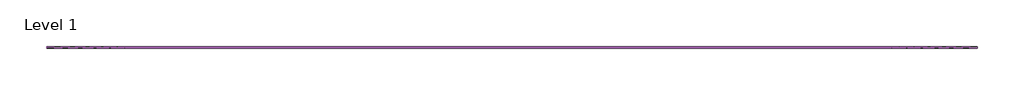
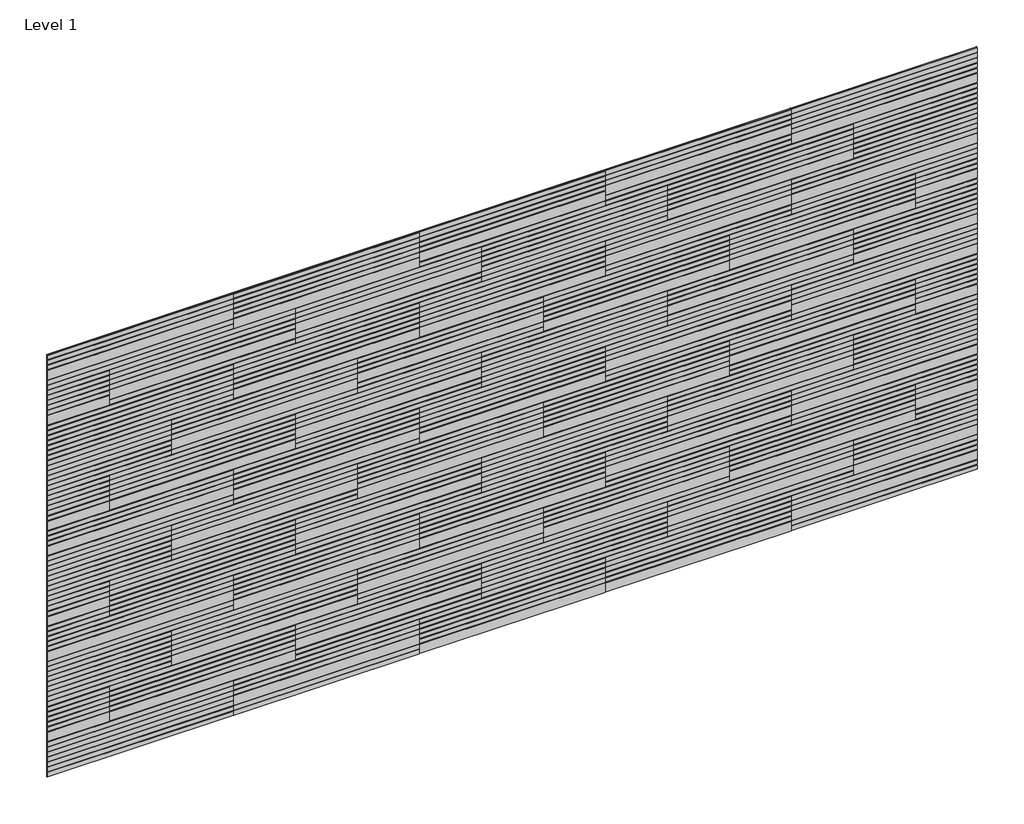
# One storey: 67 proxies.
"""IFC4 building model written with IfcOpenShell, lengths in millimetres."""

from ifc_helpers import new_model, si_unit, origin, place, context, project, spatial, transform, mapped, element, save
from components import module_a_b5c75f02, module_b_1bbdab97, module_c_0c66536b, module_d_57ad0258, module_e_592a369e, module_h_7d357ae6, module_j_3c90ee58, module_l_b7052bb7

model = new_model("IFC4")

# Units and contexts
model_context = context("Model", 3, world=origin())
ifc_project = project(units=[si_unit("LENGTHUNIT", "METRE", prefix="MILLI")], contexts=[model_context])

# Site, building, storey
site = spatial("IfcSite", under=ifc_project)
building = spatial("IfcBuilding", under=site)
storey = spatial("IfcBuildingStorey", under=building, Name="Level 1", Elevation=0.0)

# Proxies
placement = place(None, origin())
module_a_shape = module_a_b5c75f02(model_context)
element("IfcBuildingElementProxy", 1, Name="FilzFelt_Gap : Module A", ObjectType="FilzFelt_Gap : Module A", at=placement, inside=storey, context=model_context, shape_type="MappedRepresentation", body=[
    mapped(module_a_shape, transform((-18192.5631386, 525.5178844, 2895.6), x_axis=(1.0, 0.0, 0.0), y_axis=(0.0, 0.0, 1.0), z_axis=(0.0, -1.0, 0.0))),
])
element("IfcBuildingElementProxy", 2, Name="FilzFelt_Gap : Module A", ObjectType="FilzFelt_Gap : Module A", at=placement, inside=storey, context=model_context, shape_type="MappedRepresentation", body=[
    mapped(module_a_shape, transform((-18192.5631386, 525.5178844, 152.4), x_axis=(1.0, 0.0, 0.0), y_axis=(0.0, 0.0, 1.0), z_axis=(0.0, -1.0, 0.0))),
])
element("IfcBuildingElementProxy", 3, Name="FilzFelt_Gap : Module A", ObjectType="FilzFelt_Gap : Module A", at=placement, inside=storey, context=model_context, shape_type="MappedRepresentation", body=[
    mapped(module_a_shape, transform((-14636.5631386, 525.5178844, 2286.0), x_axis=(1.0, 0.0, 0.0), y_axis=(0.0, 0.0, 1.0), z_axis=(0.0, -1.0, 0.0))),
])
element("IfcBuildingElementProxy", 4, Name="FilzFelt_Gap : Module A", ObjectType="FilzFelt_Gap : Module A", at=placement, inside=storey, context=model_context, shape_type="MappedRepresentation", body=[
    mapped(module_a_shape, transform((-17684.5631386, 525.5178844, 1371.6), x_axis=(1.0, 0.0, 0.0), y_axis=(0.0, 0.0, 1.0), z_axis=(0.0, -1.0, 0.0))),
])
element("IfcBuildingElementProxy", 5, Name="FilzFelt_Gap : Module A", ObjectType="FilzFelt_Gap : Module A", at=placement, inside=storey, context=model_context, shape_type="MappedRepresentation", body=[
    mapped(module_a_shape, transform((-14636.5631386, 525.5178844, 1371.6), x_axis=(1.0, 0.0, 0.0), y_axis=(0.0, 0.0, 1.0), z_axis=(0.0, -1.0, 0.0))),
])
element("IfcBuildingElementProxy", 6, Name="FilzFelt_Gap : Module A", ObjectType="FilzFelt_Gap : Module A", at=placement, inside=storey, context=model_context, shape_type="MappedRepresentation", body=[
    mapped(module_a_shape, transform((-14636.5631386, 525.5178844, 457.2), x_axis=(1.0, 0.0, 0.0), y_axis=(0.0, 0.0, 1.0), z_axis=(0.0, -1.0, 0.0))),
])
element("IfcBuildingElementProxy", 7, Name="FilzFelt_Gap : Module A", ObjectType="FilzFelt_Gap : Module A", at=placement, inside=storey, context=model_context, shape_type="MappedRepresentation", body=[
    mapped(module_a_shape, transform((-14636.5631386, 525.5178844, 3200.4), x_axis=(1.0, 0.0, 0.0), y_axis=(0.0, 0.0, 1.0), z_axis=(0.0, -1.0, 0.0))),
])
module_b_shape = module_b_1bbdab97(model_context)
element("IfcBuildingElementProxy", 8, Name="FilzFelt_Gap : Module B", ObjectType="FilzFelt_Gap : Module B", at=placement, inside=storey, context=model_context, shape_type="MappedRepresentation", body=[
    mapped(module_b_shape, transform((-18192.5631386, 525.5178844, 3505.2), x_axis=(1.0, 0.0, 0.0), y_axis=(0.0, 0.0, 1.0), z_axis=(0.0, -1.0, 0.0))),
])
element("IfcBuildingElementProxy", 9, Name="FilzFelt_Gap : Module B", ObjectType="FilzFelt_Gap : Module B", at=placement, inside=storey, context=model_context, shape_type="MappedRepresentation", body=[
    mapped(module_b_shape, transform((-18192.5631386, 525.5178844, 1981.2), x_axis=(1.0, 0.0, 0.0), y_axis=(0.0, 0.0, 1.0), z_axis=(0.0, -1.0, 0.0))),
])
element("IfcBuildingElementProxy", 10, Name="FilzFelt_Gap : Module B", ObjectType="FilzFelt_Gap : Module B", at=placement, inside=storey, context=model_context, shape_type="MappedRepresentation", body=[
    mapped(module_b_shape, transform((-18192.5631386, 525.5178844, 1066.8), x_axis=(1.0, 0.0, 0.0), y_axis=(0.0, 0.0, 1.0), z_axis=(0.0, -1.0, 0.0))),
])
element("IfcBuildingElementProxy", 11, Name="FilzFelt_Gap : Module B", ObjectType="FilzFelt_Gap : Module B", at=placement, inside=storey, context=model_context, shape_type="MappedRepresentation", body=[
    mapped(module_b_shape, transform((-13620.5631386, 525.5178844, 3505.2), x_axis=(1.0, 0.0, 0.0), y_axis=(0.0, 0.0, 1.0), z_axis=(0.0, -1.0, 0.0))),
])
element("IfcBuildingElementProxy", 12, Name="FilzFelt_Gap : Module B", ObjectType="FilzFelt_Gap : Module B", at=placement, inside=storey, context=model_context, shape_type="MappedRepresentation", body=[
    mapped(module_b_shape, transform((-13620.5631386, 525.5178844, 2895.6), x_axis=(1.0, 0.0, 0.0), y_axis=(0.0, 0.0, 1.0), z_axis=(0.0, -1.0, 0.0))),
])
element("IfcBuildingElementProxy", 13, Name="FilzFelt_Gap : Module B", ObjectType="FilzFelt_Gap : Module B", at=placement, inside=storey, context=model_context, shape_type="MappedRepresentation", body=[
    mapped(module_b_shape, transform((-12096.5631386, 525.5178844, 2895.6), x_axis=(1.0, 0.0, 0.0), y_axis=(0.0, 0.0, 1.0), z_axis=(0.0, -1.0, 0.0))),
])
element("IfcBuildingElementProxy", 14, Name="FilzFelt_Gap : Module B", ObjectType="FilzFelt_Gap : Module B", at=placement, inside=storey, context=model_context, shape_type="MappedRepresentation", body=[
    mapped(module_b_shape, transform((-15652.5631386, 525.5178844, 2590.8), x_axis=(1.0, 0.0, 0.0), y_axis=(0.0, 0.0, 1.0), z_axis=(0.0, -1.0, 0.0))),
])
element("IfcBuildingElementProxy", 15, Name="FilzFelt_Gap : Module B", ObjectType="FilzFelt_Gap : Module B", at=placement, inside=storey, context=model_context, shape_type="MappedRepresentation", body=[
    mapped(module_b_shape, transform((-16160.5631386, 525.5178844, 2286.0), x_axis=(1.0, 0.0, 0.0), y_axis=(0.0, 0.0, 1.0), z_axis=(0.0, -1.0, 0.0))),
])
element("IfcBuildingElementProxy", 16, Name="FilzFelt_Gap : Module B", ObjectType="FilzFelt_Gap : Module B", at=placement, inside=storey, context=model_context, shape_type="MappedRepresentation", body=[
    mapped(module_b_shape, transform((-13112.5631386, 525.5178844, 2286.0), x_axis=(1.0, 0.0, 0.0), y_axis=(0.0, 0.0, 1.0), z_axis=(0.0, -1.0, 0.0))),
])
element("IfcBuildingElementProxy", 17, Name="FilzFelt_Gap : Module B", ObjectType="FilzFelt_Gap : Module B", at=placement, inside=storey, context=model_context, shape_type="MappedRepresentation", body=[
    mapped(module_b_shape, transform((-13620.5631386, 525.5178844, 1981.2), x_axis=(1.0, 0.0, 0.0), y_axis=(0.0, 0.0, 1.0), z_axis=(0.0, -1.0, 0.0))),
])
element("IfcBuildingElementProxy", 18, Name="FilzFelt_Gap : Module B", ObjectType="FilzFelt_Gap : Module B", at=placement, inside=storey, context=model_context, shape_type="MappedRepresentation", body=[
    mapped(module_b_shape, transform((-17176.5631386, 525.5178844, 1676.4), x_axis=(1.0, 0.0, 0.0), y_axis=(0.0, 0.0, 1.0), z_axis=(0.0, -1.0, 0.0))),
])
element("IfcBuildingElementProxy", 19, Name="FilzFelt_Gap : Module B", ObjectType="FilzFelt_Gap : Module B", at=placement, inside=storey, context=model_context, shape_type="MappedRepresentation", body=[
    mapped(module_b_shape, transform((-12604.5631386, 525.5178844, 1676.4), x_axis=(1.0, 0.0, 0.0), y_axis=(0.0, 0.0, 1.0), z_axis=(0.0, -1.0, 0.0))),
])
element("IfcBuildingElementProxy", 20, Name="FilzFelt_Gap : Module B", ObjectType="FilzFelt_Gap : Module B", at=placement, inside=storey, context=model_context, shape_type="MappedRepresentation", body=[
    mapped(module_b_shape, transform((-16160.5631386, 525.5178844, 1371.6), x_axis=(1.0, 0.0, 0.0), y_axis=(0.0, 0.0, 1.0), z_axis=(0.0, -1.0, 0.0))),
])
element("IfcBuildingElementProxy", 21, Name="FilzFelt_Gap : Module B", ObjectType="FilzFelt_Gap : Module B", at=placement, inside=storey, context=model_context, shape_type="MappedRepresentation", body=[
    mapped(module_b_shape, transform((-13620.5631386, 525.5178844, 1066.8), x_axis=(1.0, 0.0, 0.0), y_axis=(0.0, 0.0, 1.0), z_axis=(0.0, -1.0, 0.0))),
])
element("IfcBuildingElementProxy", 22, Name="FilzFelt_Gap : Module B", ObjectType="FilzFelt_Gap : Module B", at=placement, inside=storey, context=model_context, shape_type="MappedRepresentation", body=[
    mapped(module_b_shape, transform((-12096.5631386, 525.5178844, 1066.8), x_axis=(1.0, 0.0, 0.0), y_axis=(0.0, 0.0, 1.0), z_axis=(0.0, -1.0, 0.0))),
])
element("IfcBuildingElementProxy", 23, Name="FilzFelt_Gap : Module B", ObjectType="FilzFelt_Gap : Module B", at=placement, inside=storey, context=model_context, shape_type="MappedRepresentation", body=[
    mapped(module_b_shape, transform((-15652.5631386, 525.5178844, 762.0), x_axis=(1.0, 0.0, 0.0), y_axis=(0.0, 0.0, 1.0), z_axis=(0.0, -1.0, 0.0))),
])
element("IfcBuildingElementProxy", 24, Name="FilzFelt_Gap : Module B", ObjectType="FilzFelt_Gap : Module B", at=placement, inside=storey, context=model_context, shape_type="MappedRepresentation", body=[
    mapped(module_b_shape, transform((-16160.5631386, 525.5178844, 457.2), x_axis=(1.0, 0.0, 0.0), y_axis=(0.0, 0.0, 1.0), z_axis=(0.0, -1.0, 0.0))),
])
element("IfcBuildingElementProxy", 25, Name="FilzFelt_Gap : Module B", ObjectType="FilzFelt_Gap : Module B", at=placement, inside=storey, context=model_context, shape_type="MappedRepresentation", body=[
    mapped(module_b_shape, transform((-13112.5631386, 525.5178844, 457.2), x_axis=(1.0, 0.0, 0.0), y_axis=(0.0, 0.0, 1.0), z_axis=(0.0, -1.0, 0.0))),
])
element("IfcBuildingElementProxy", 26, Name="FilzFelt_Gap : Module B", ObjectType="FilzFelt_Gap : Module B", at=placement, inside=storey, context=model_context, shape_type="MappedRepresentation", body=[
    mapped(module_b_shape, transform((-16668.5631386, 525.5178844, 152.4), x_axis=(1.0, 0.0, 0.0), y_axis=(0.0, 0.0, 1.0), z_axis=(0.0, -1.0, 0.0))),
])
element("IfcBuildingElementProxy", 27, Name="FilzFelt_Gap : Module B", ObjectType="FilzFelt_Gap : Module B", at=placement, inside=storey, context=model_context, shape_type="MappedRepresentation", body=[
    mapped(module_b_shape, transform((-12096.5631386, 525.5178844, 152.4), x_axis=(1.0, 0.0, 0.0), y_axis=(0.0, 0.0, 1.0), z_axis=(0.0, -1.0, 0.0))),
])
element("IfcBuildingElementProxy", 28, Name="FilzFelt_Gap : Module B", ObjectType="FilzFelt_Gap : Module B", at=placement, inside=storey, context=model_context, shape_type="MappedRepresentation", body=[
    mapped(module_b_shape, transform((-16160.5631386, 525.5178844, 3200.4), x_axis=(1.0, 0.0, 0.0), y_axis=(0.0, 0.0, 1.0), z_axis=(0.0, -1.0, 0.0))),
])
module_c_shape = module_c_0c66536b(model_context)
element("IfcBuildingElementProxy", 29, Name="FilzFelt_Gap : Module C", ObjectType="FilzFelt_Gap : Module C", at=placement, inside=storey, context=model_context, shape_type="MappedRepresentation", body=[
    mapped(module_c_shape, transform((-15144.5631386, 525.5178844, 3505.2), x_axis=(1.0, 0.0, 0.0), y_axis=(0.0, 0.0, 1.0), z_axis=(0.0, -1.0, 0.0))),
])
element("IfcBuildingElementProxy", 30, Name="FilzFelt_Gap : Module C", ObjectType="FilzFelt_Gap : Module C", at=placement, inside=storey, context=model_context, shape_type="MappedRepresentation", body=[
    mapped(module_c_shape, transform((-17176.5631386, 525.5178844, 2590.8), x_axis=(1.0, 0.0, 0.0), y_axis=(0.0, 0.0, 1.0), z_axis=(0.0, -1.0, 0.0))),
])
element("IfcBuildingElementProxy", 31, Name="FilzFelt_Gap : Module C", ObjectType="FilzFelt_Gap : Module C", at=placement, inside=storey, context=model_context, shape_type="MappedRepresentation", body=[
    mapped(module_c_shape, transform((-16668.5631386, 525.5178844, 1981.2), x_axis=(1.0, 0.0, 0.0), y_axis=(0.0, 0.0, 1.0), z_axis=(0.0, -1.0, 0.0))),
])
element("IfcBuildingElementProxy", 32, Name="FilzFelt_Gap : Module C", ObjectType="FilzFelt_Gap : Module C", at=placement, inside=storey, context=model_context, shape_type="MappedRepresentation", body=[
    mapped(module_c_shape, transform((-12096.5631386, 525.5178844, 1981.2), x_axis=(1.0, 0.0, 0.0), y_axis=(0.0, 0.0, 1.0), z_axis=(0.0, -1.0, 0.0))),
])
element("IfcBuildingElementProxy", 33, Name="FilzFelt_Gap : Module C", ObjectType="FilzFelt_Gap : Module C", at=placement, inside=storey, context=model_context, shape_type="MappedRepresentation", body=[
    mapped(module_c_shape, transform((-13112.5631386, 525.5178844, 1371.6), x_axis=(1.0, 0.0, 0.0), y_axis=(0.0, 0.0, 1.0), z_axis=(0.0, -1.0, 0.0))),
])
element("IfcBuildingElementProxy", 34, Name="FilzFelt_Gap : Module C", ObjectType="FilzFelt_Gap : Module C", at=placement, inside=storey, context=model_context, shape_type="MappedRepresentation", body=[
    mapped(module_c_shape, transform((-14128.5631386, 525.5178844, 762.0), x_axis=(1.0, 0.0, 0.0), y_axis=(0.0, 0.0, 1.0), z_axis=(0.0, -1.0, 0.0))),
])
element("IfcBuildingElementProxy", 35, Name="FilzFelt_Gap : Module C", ObjectType="FilzFelt_Gap : Module C", at=placement, inside=storey, context=model_context, shape_type="MappedRepresentation", body=[
    mapped(module_c_shape, transform((-17684.5631386, 525.5178844, 3200.4), x_axis=(1.0, 0.0, 0.0), y_axis=(0.0, 0.0, 1.0), z_axis=(0.0, -1.0, 0.0))),
])
module_d_shape = module_d_57ad0258(model_context)
element("IfcBuildingElementProxy", 36, Name="FilzFelt_Gap : Module D", ObjectType="FilzFelt_Gap : Module D", at=placement, inside=storey, context=model_context, shape_type="MappedRepresentation", body=[
    mapped(module_d_shape, transform((-16668.5631386, 525.5178844, 3505.2), x_axis=(1.0, 0.0, 0.0), y_axis=(0.0, 0.0, 1.0), z_axis=(0.0, -1.0, 0.0))),
])
element("IfcBuildingElementProxy", 37, Name="FilzFelt_Gap : Module D", ObjectType="FilzFelt_Gap : Module D", at=placement, inside=storey, context=model_context, shape_type="MappedRepresentation", body=[
    mapped(module_d_shape, transform((-12096.5631386, 525.5178844, 3505.2), x_axis=(1.0, 0.0, 0.0), y_axis=(0.0, 0.0, 1.0), z_axis=(0.0, -1.0, 0.0))),
])
element("IfcBuildingElementProxy", 38, Name="FilzFelt_Gap : Module D", ObjectType="FilzFelt_Gap : Module D", at=placement, inside=storey, context=model_context, shape_type="MappedRepresentation", body=[
    mapped(module_d_shape, transform((-16668.5631386, 525.5178844, 2895.6), x_axis=(1.0, 0.0, 0.0), y_axis=(0.0, 0.0, 1.0), z_axis=(0.0, -1.0, 0.0))),
])
element("IfcBuildingElementProxy", 39, Name="FilzFelt_Gap : Module D", ObjectType="FilzFelt_Gap : Module D", at=placement, inside=storey, context=model_context, shape_type="MappedRepresentation", body=[
    mapped(module_d_shape, transform((-15144.5631386, 525.5178844, 2895.6), x_axis=(1.0, 0.0, 0.0), y_axis=(0.0, 0.0, 1.0), z_axis=(0.0, -1.0, 0.0))),
])
element("IfcBuildingElementProxy", 40, Name="FilzFelt_Gap : Module D", ObjectType="FilzFelt_Gap : Module D", at=placement, inside=storey, context=model_context, shape_type="MappedRepresentation", body=[
    mapped(module_d_shape, transform((-14128.5631386, 525.5178844, 2590.8), x_axis=(1.0, 0.0, 0.0), y_axis=(0.0, 0.0, 1.0), z_axis=(0.0, -1.0, 0.0))),
])
element("IfcBuildingElementProxy", 41, Name="FilzFelt_Gap : Module D", ObjectType="FilzFelt_Gap : Module D", at=placement, inside=storey, context=model_context, shape_type="MappedRepresentation", body=[
    mapped(module_d_shape, transform((-12604.5631386, 525.5178844, 2590.8), x_axis=(1.0, 0.0, 0.0), y_axis=(0.0, 0.0, 1.0), z_axis=(0.0, -1.0, 0.0))),
])
element("IfcBuildingElementProxy", 42, Name="FilzFelt_Gap : Module D", ObjectType="FilzFelt_Gap : Module D", at=placement, inside=storey, context=model_context, shape_type="MappedRepresentation", body=[
    mapped(module_d_shape, transform((-17684.5631386, 525.5178844, 2286.0), x_axis=(1.0, 0.0, 0.0), y_axis=(0.0, 0.0, 1.0), z_axis=(0.0, -1.0, 0.0))),
])
element("IfcBuildingElementProxy", 43, Name="FilzFelt_Gap : Module D", ObjectType="FilzFelt_Gap : Module D", at=placement, inside=storey, context=model_context, shape_type="MappedRepresentation", body=[
    mapped(module_d_shape, transform((-15144.5631386, 525.5178844, 1981.2), x_axis=(1.0, 0.0, 0.0), y_axis=(0.0, 0.0, 1.0), z_axis=(0.0, -1.0, 0.0))),
])
element("IfcBuildingElementProxy", 44, Name="FilzFelt_Gap : Module D", ObjectType="FilzFelt_Gap : Module D", at=placement, inside=storey, context=model_context, shape_type="MappedRepresentation", body=[
    mapped(module_d_shape, transform((-15652.5631386, 525.5178844, 1676.4), x_axis=(1.0, 0.0, 0.0), y_axis=(0.0, 0.0, 1.0), z_axis=(0.0, -1.0, 0.0))),
])
element("IfcBuildingElementProxy", 45, Name="FilzFelt_Gap : Module D", ObjectType="FilzFelt_Gap : Module D", at=placement, inside=storey, context=model_context, shape_type="MappedRepresentation", body=[
    mapped(module_d_shape, transform((-14128.5631386, 525.5178844, 1676.4), x_axis=(1.0, 0.0, 0.0), y_axis=(0.0, 0.0, 1.0), z_axis=(0.0, -1.0, 0.0))),
])
element("IfcBuildingElementProxy", 46, Name="FilzFelt_Gap : Module D", ObjectType="FilzFelt_Gap : Module D", at=placement, inside=storey, context=model_context, shape_type="MappedRepresentation", body=[
    mapped(module_d_shape, transform((-16668.5631386, 525.5178844, 1066.8), x_axis=(1.0, 0.0, 0.0), y_axis=(0.0, 0.0, 1.0), z_axis=(0.0, -1.0, 0.0))),
])
element("IfcBuildingElementProxy", 47, Name="FilzFelt_Gap : Module D", ObjectType="FilzFelt_Gap : Module D", at=placement, inside=storey, context=model_context, shape_type="MappedRepresentation", body=[
    mapped(module_d_shape, transform((-15144.5631386, 525.5178844, 1066.8), x_axis=(1.0, 0.0, 0.0), y_axis=(0.0, 0.0, 1.0), z_axis=(0.0, -1.0, 0.0))),
])
element("IfcBuildingElementProxy", 48, Name="FilzFelt_Gap : Module D", ObjectType="FilzFelt_Gap : Module D", at=placement, inside=storey, context=model_context, shape_type="MappedRepresentation", body=[
    mapped(module_d_shape, transform((-17176.5631386, 525.5178844, 762.0), x_axis=(1.0, 0.0, 0.0), y_axis=(0.0, 0.0, 1.0), z_axis=(0.0, -1.0, 0.0))),
])
element("IfcBuildingElementProxy", 49, Name="FilzFelt_Gap : Module D", ObjectType="FilzFelt_Gap : Module D", at=placement, inside=storey, context=model_context, shape_type="MappedRepresentation", body=[
    mapped(module_d_shape, transform((-12604.5631386, 525.5178844, 762.0), x_axis=(1.0, 0.0, 0.0), y_axis=(0.0, 0.0, 1.0), z_axis=(0.0, -1.0, 0.0))),
])
element("IfcBuildingElementProxy", 50, Name="FilzFelt_Gap : Module D", ObjectType="FilzFelt_Gap : Module D", at=placement, inside=storey, context=model_context, shape_type="MappedRepresentation", body=[
    mapped(module_d_shape, transform((-17684.5631386, 525.5178844, 457.2), x_axis=(1.0, 0.0, 0.0), y_axis=(0.0, 0.0, 1.0), z_axis=(0.0, -1.0, 0.0))),
])
element("IfcBuildingElementProxy", 51, Name="FilzFelt_Gap : Module D", ObjectType="FilzFelt_Gap : Module D", at=placement, inside=storey, context=model_context, shape_type="MappedRepresentation", body=[
    mapped(module_d_shape, transform((-15144.5631386, 525.5178844, 152.4), x_axis=(1.0, 0.0, 0.0), y_axis=(0.0, 0.0, 1.0), z_axis=(0.0, -1.0, 0.0))),
])
element("IfcBuildingElementProxy", 52, Name="FilzFelt_Gap : Module D", ObjectType="FilzFelt_Gap : Module D", at=placement, inside=storey, context=model_context, shape_type="MappedRepresentation", body=[
    mapped(module_d_shape, transform((-13620.5631386, 525.5178844, 152.4), x_axis=(1.0, 0.0, 0.0), y_axis=(0.0, 0.0, 1.0), z_axis=(0.0, -1.0, 0.0))),
])
element("IfcBuildingElementProxy", 53, Name="FilzFelt_Gap : Module D", ObjectType="FilzFelt_Gap : Module D", at=placement, inside=storey, context=model_context, shape_type="MappedRepresentation", body=[
    mapped(module_d_shape, transform((-13112.5631386, 525.5178844, 3200.4), x_axis=(1.0, 0.0, 0.0), y_axis=(0.0, 0.0, 1.0), z_axis=(0.0, -1.0, 0.0))),
])
module_e_shape = module_e_592a369e(model_context)
element("IfcBuildingElementProxy", 54, Name="FilzFelt_Gap : Module E", ObjectType="FilzFelt_Gap : Module E", at=placement, inside=storey, context=model_context, shape_type="MappedRepresentation", body=[
    mapped(module_e_shape, transform((-18446.5631386, 525.5178844, 2590.8), x_axis=(1.0, 0.0, 0.0), y_axis=(0.0, 0.0, 1.0), z_axis=(0.0, -1.0, 0.0))),
])
element("IfcBuildingElementProxy", 55, Name="FilzFelt_Gap : Module E", ObjectType="FilzFelt_Gap : Module E", at=placement, inside=storey, context=model_context, shape_type="MappedRepresentation", body=[
    mapped(module_e_shape, transform((-18446.5631386, 525.5178844, 1676.4), x_axis=(1.0, 0.0, 0.0), y_axis=(0.0, 0.0, 1.0), z_axis=(0.0, -1.0, 0.0))),
])
element("IfcBuildingElementProxy", 56, Name="FilzFelt_Gap : Module E", ObjectType="FilzFelt_Gap : Module E", at=placement, inside=storey, context=model_context, shape_type="MappedRepresentation", body=[
    mapped(module_e_shape, transform((-18446.5631386, 525.5178844, 762.0), x_axis=(1.0, 0.0, 0.0), y_axis=(0.0, 0.0, 1.0), z_axis=(0.0, -1.0, 0.0))),
])
element("IfcBuildingElementProxy", 57, Name="FilzFelt_Gap : Module E", ObjectType="FilzFelt_Gap : Module E", at=placement, inside=storey, context=model_context, shape_type="MappedRepresentation", body=[
    mapped(module_e_shape, transform((-11842.5631386, 525.5178844, 1371.6), x_axis=(1.0, 0.0, 0.0), y_axis=(0.0, 0.0, 1.0), z_axis=(0.0, -1.0, 0.0))),
])
element("IfcBuildingElementProxy", 58, Name="FilzFelt_Gap : Module E", ObjectType="FilzFelt_Gap : Module E", at=placement, inside=storey, context=model_context, shape_type="MappedRepresentation", body=[
    mapped(module_e_shape, transform((-11842.5631386, 525.5178844, 3200.4), x_axis=(1.0, 0.0, 0.0), y_axis=(0.0, 0.0, 1.0), z_axis=(0.0, -1.0, 0.0))),
])
module_h_shape = module_h_7d357ae6(model_context)
element("IfcBuildingElementProxy", 59, Name="FilzFelt_Gap : Module H", ObjectType="FilzFelt_Gap : Module H", at=placement, inside=storey, context=model_context, shape_type="MappedRepresentation", body=[
    mapped(module_h_shape, transform((-11842.5631386, 525.5178844, 2286.0), x_axis=(1.0, 0.0, 0.0), y_axis=(0.0, 0.0, 1.0), z_axis=(0.0, -1.0, 0.0))),
])
element("IfcBuildingElementProxy", 60, Name="FilzFelt_Gap : Module H", ObjectType="FilzFelt_Gap : Module H", at=placement, inside=storey, context=model_context, shape_type="MappedRepresentation", body=[
    mapped(module_h_shape, transform((-11842.5631386, 525.5178844, 457.2), x_axis=(1.0, 0.0, 0.0), y_axis=(0.0, 0.0, 1.0), z_axis=(0.0, -1.0, 0.0))),
])
module_j_shape = module_j_3c90ee58(model_context)
element("IfcBuildingElementProxy", 61, Name="FilzFelt_Gap : Module J", ObjectType="FilzFelt_Gap : Module J", at=placement, inside=storey, context=model_context, shape_type="MappedRepresentation", body=[
    mapped(module_j_shape, transform((-18700.5631386, 525.5178844, 1371.6), x_axis=(1.0, 0.0, 0.0), y_axis=(0.0, 0.0, 1.0), z_axis=(0.0, -1.0, 0.0))),
])
element("IfcBuildingElementProxy", 62, Name="FilzFelt_Gap : Module J", ObjectType="FilzFelt_Gap : Module J", at=placement, inside=storey, context=model_context, shape_type="MappedRepresentation", body=[
    mapped(module_j_shape, transform((-11588.5631386, 525.5178844, 2590.8), x_axis=(1.0, 0.0, 0.0), y_axis=(0.0, 0.0, 1.0), z_axis=(0.0, -1.0, 0.0))),
])
element("IfcBuildingElementProxy", 63, Name="FilzFelt_Gap : Module J", ObjectType="FilzFelt_Gap : Module J", at=placement, inside=storey, context=model_context, shape_type="MappedRepresentation", body=[
    mapped(module_j_shape, transform((-11588.5631386, 525.5178844, 762.0), x_axis=(1.0, 0.0, 0.0), y_axis=(0.0, 0.0, 1.0), z_axis=(0.0, -1.0, 0.0))),
])
module_l_shape = module_l_b7052bb7(model_context)
element("IfcBuildingElementProxy", 64, Name="FilzFelt_Gap : Module L", ObjectType="FilzFelt_Gap : Module L", at=placement, inside=storey, context=model_context, shape_type="MappedRepresentation", body=[
    mapped(module_l_shape, transform((-18700.5631386, 525.5178844, 3200.4), x_axis=(1.0, 0.0, 0.0), y_axis=(0.0, 0.0, 1.0), z_axis=(0.0, -1.0, 0.0))),
])
element("IfcBuildingElementProxy", 65, Name="FilzFelt_Gap : Module L", ObjectType="FilzFelt_Gap : Module L", at=placement, inside=storey, context=model_context, shape_type="MappedRepresentation", body=[
    mapped(module_l_shape, transform((-18700.5631386, 525.5178844, 2286.0), x_axis=(1.0, 0.0, 0.0), y_axis=(0.0, 0.0, 1.0), z_axis=(0.0, -1.0, 0.0))),
])
element("IfcBuildingElementProxy", 66, Name="FilzFelt_Gap : Module L", ObjectType="FilzFelt_Gap : Module L", at=placement, inside=storey, context=model_context, shape_type="MappedRepresentation", body=[
    mapped(module_l_shape, transform((-18700.5631386, 525.5178844, 457.2), x_axis=(1.0, 0.0, 0.0), y_axis=(0.0, 0.0, 1.0), z_axis=(0.0, -1.0, 0.0))),
])
element("IfcBuildingElementProxy", 67, Name="FilzFelt_Gap : Module L", ObjectType="FilzFelt_Gap : Module L", at=placement, inside=storey, context=model_context, shape_type="MappedRepresentation", body=[
    mapped(module_l_shape, transform((-11588.5631386, 525.5178844, 1676.4), x_axis=(1.0, 0.0, 0.0), y_axis=(0.0, 0.0, 1.0), z_axis=(0.0, -1.0, 0.0))),
])

save(model, "model.ifc")
